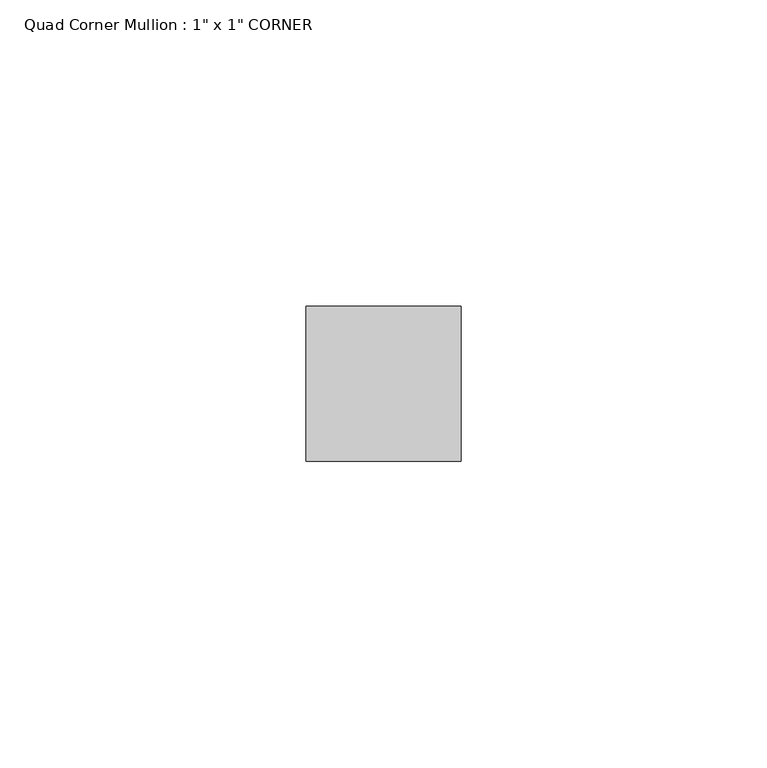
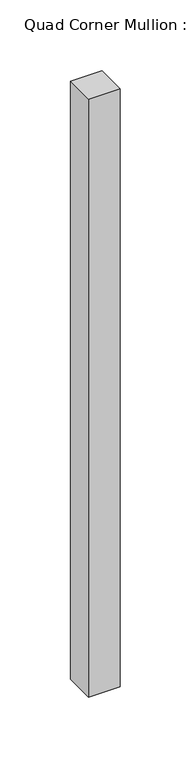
"""IFC4 building model written with IfcOpenShell, lengths in millimetres: member geometry."""

from ifc_helpers import new_model, si_unit, frame, origin, place, context, project, spatial, polyline, outline, extrude, source, transform, mapped, element, save


def member_6cc33274(model_context):
    return source(origin(), model_context, "Body", "SweptSolid", [
        extrude(outline(polyline([(0.0, 25.4), (0.0, 0.0), (-25.4, 0.0), (-25.4, 25.4), (0.0, 25.4)])), frame((0.0, 0.0, -514.35), z_axis=(0.0, 0.0, 1.0), x_axis=(1.0, 0.0, 0.0)), (0.0, 0.0, 1.0), 514.35),
    ])


if __name__ == "__main__":
    model = new_model("IFC4")
    model_context = context("Model", 3, world=origin())
    ifc_project = project(units=[si_unit("LENGTHUNIT", "METRE", prefix="MILLI")], contexts=[model_context])
    site = spatial("IfcSite", under=ifc_project)
    building = spatial("IfcBuilding", under=site)
    placement = place(None, origin())
    member_shape = member_6cc33274(model_context)
    element("IfcMember", 1, ObjectType="Quad Corner Mullion : 1\" x 1\" CORNER", at=placement, inside=building, context=model_context, shape_type="MappedRepresentation", body=[
        mapped(member_shape, transform((0.0, 0.0, 0.0), x_axis=(1.0, 0.0, 0.0), y_axis=(0.0, 1.0, 0.0), z_axis=(0.0, 0.0, 1.0))),
    ])
    save(model, "model.ifc")
